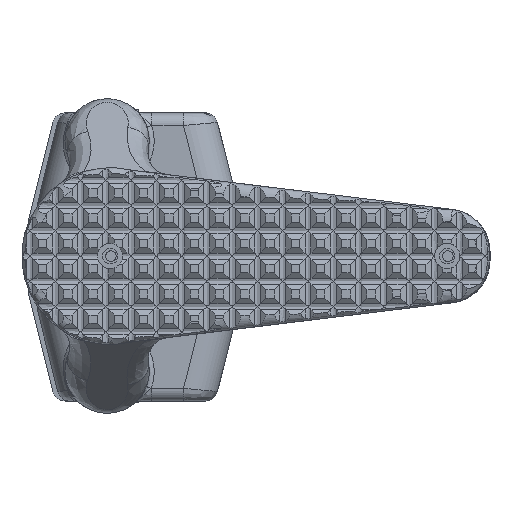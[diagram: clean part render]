
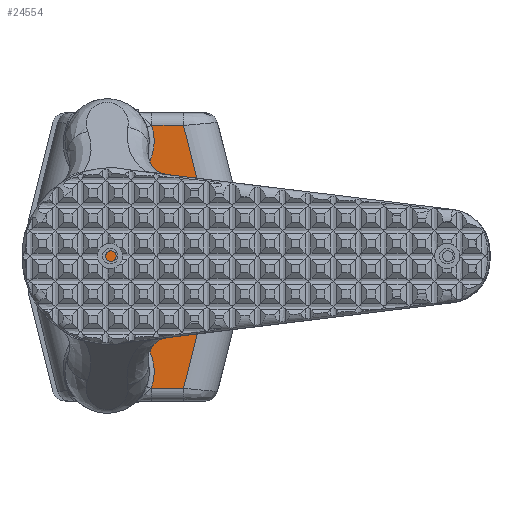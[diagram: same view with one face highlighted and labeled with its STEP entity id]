
A CAD part, left-side view. The second image highlights one B-rep face of the part: STEP entity #24554.
In plain terms, the highlighted planar face has unit normal (-1, 0, 0).
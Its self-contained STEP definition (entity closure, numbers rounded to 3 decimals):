
#1695=PLANE('',#26655);
#3653=FACE_OUTER_BOUND('',#5157,.T.);
#5157=EDGE_LOOP('',(#22109,#22110,#22111,#22112,#22113,#22114,#22115,#22116,
#22117,#22118));
#5667=CIRCLE('',#26652,11.2);
#5668=CIRCLE('',#26654,11.2);
#7615=LINE('',#59435,#9512);
#7628=LINE('',#59608,#9525);
#7630=LINE('',#59706,#9527);
#7636=LINE('',#59945,#9533);
#7642=LINE('',#60078,#9539);
#7644=LINE('',#60167,#9541);
#7691=LINE('',#60899,#9588);
#7692=LINE('',#60900,#9589);
#9512=VECTOR('',#32074,7.545);
#9525=VECTOR('',#32121,18.472);
#9527=VECTOR('',#32145,7.297);
#9533=VECTOR('',#32193,7.709);
#9539=VECTOR('',#32225,6.915);
#9541=VECTOR('',#32249,18.472);
#9588=VECTOR('',#32426,23.116);
#9589=VECTOR('',#32427,26.563);
#11678=VERTEX_POINT('',#59429);
#11679=VERTEX_POINT('',#59433);
#11696=VERTEX_POINT('',#59607);
#11699=VERTEX_POINT('',#59691);
#11701=VERTEX_POINT('',#59704);
#11714=VERTEX_POINT('',#59926);
#11715=VERTEX_POINT('',#59943);
#11723=VERTEX_POINT('',#60068);
#11724=VERTEX_POINT('',#60077);
#11728=VERTEX_POINT('',#60165);
#15076=EDGE_CURVE('',#11679,#11678,#7615,.T.);
#15104=EDGE_CURVE('',#11678,#11696,#7628,.T.);
#15116=EDGE_CURVE('',#11701,#11699,#7630,.T.);
#15143=EDGE_CURVE('',#11715,#11714,#7636,.T.);
#15159=EDGE_CURVE('',#11723,#11724,#7642,.T.);
#15170=EDGE_CURVE('',#11728,#11715,#7644,.T.);
#15270=EDGE_CURVE('',#11699,#11679,#5667,.T.);
#15271=EDGE_CURVE('',#11714,#11723,#5668,.T.);
#15272=EDGE_CURVE('',#11724,#11701,#7691,.T.);
#15273=EDGE_CURVE('',#11696,#11728,#7692,.T.);
#22109=ORIENTED_EDGE('',*,*,#15270,.F.);
#22110=ORIENTED_EDGE('',*,*,#15116,.F.);
#22111=ORIENTED_EDGE('',*,*,#15272,.F.);
#22112=ORIENTED_EDGE('',*,*,#15159,.F.);
#22113=ORIENTED_EDGE('',*,*,#15271,.F.);
#22114=ORIENTED_EDGE('',*,*,#15143,.F.);
#22115=ORIENTED_EDGE('',*,*,#15170,.F.);
#22116=ORIENTED_EDGE('',*,*,#15273,.F.);
#22117=ORIENTED_EDGE('',*,*,#15104,.F.);
#22118=ORIENTED_EDGE('',*,*,#15076,.F.);
#24554=ADVANCED_FACE('',(#3653),#1695,.F.);
#26652=AXIS2_PLACEMENT_3D('',#60895,#32418,#32419);
#26654=AXIS2_PLACEMENT_3D('',#60897,#32422,#32423);
#26655=AXIS2_PLACEMENT_3D('',#60898,#32424,#32425);
#32074=DIRECTION('',(0.,-1.,0.));
#32121=DIRECTION('',(0.,-0.243,-0.97));
#32145=DIRECTION('',(0.,-0.243,0.97));
#32193=DIRECTION('',(0.,1.,0.));
#32225=DIRECTION('',(0.,0.243,0.97));
#32249=DIRECTION('',(0.,0.243,-0.97));
#32418=DIRECTION('center_axis',(-1.,0.,0.));
#32419=DIRECTION('ref_axis',(0.,-0.582,-0.813));
#32422=DIRECTION('center_axis',(-1.,0.,0.));
#32423=DIRECTION('ref_axis',(0.,-0.596,0.803));
#32424=DIRECTION('center_axis',(1.,0.,0.));
#32425=DIRECTION('ref_axis',(0.,0.,
1.));
#32426=DIRECTION('',(0.,0.,1.));
#32427=DIRECTION('',(0.,0.,-1.));
#59429=CARTESIAN_POINT('',(-254.146,15.148,232.209));
#59433=CARTESIAN_POINT('',(-254.146,22.693,232.209));
#59435=CARTESIAN_POINT('',(-254.146,37.54,232.209));
#59607=CARTESIAN_POINT('',(-254.146,10.667,214.288));
#59608=CARTESIAN_POINT('',(-254.146,9.63,210.138));
#59691=CARTESIAN_POINT('',(-254.146,40.074,219.644));
#59704=CARTESIAN_POINT('',(-254.146,41.843,212.565));
#59706=CARTESIAN_POINT('',(-254.146,43.875,204.437));
#59926=CARTESIAN_POINT('',(-254.146,22.856,169.804));
#59943=CARTESIAN_POINT('',(-254.146,15.148,169.804));
#59945=CARTESIAN_POINT('',(-254.146,37.54,169.804));
#60068=CARTESIAN_POINT('',(-254.146,40.166,182.74));
#60077=CARTESIAN_POINT('',(-254.146,41.843,189.449));
#60078=CARTESIAN_POINT('',(-254.146,37.448,171.866));
#60165=CARTESIAN_POINT('',(-254.146,10.667,187.725));
#60167=CARTESIAN_POINT('',(-254.146,16.058,166.164));
#60895=CARTESIAN_POINT('Origin',(-254.146,33.277,228.546));
#60897=CARTESIAN_POINT('Origin',(-254.146,33.277,173.91));
#60898=CARTESIAN_POINT('Origin',(-254.146,43.055,173.689));
#60899=CARTESIAN_POINT('',(-254.146,41.843,187.345));
#60900=CARTESIAN_POINT('',(-254.146,10.667,187.345));
